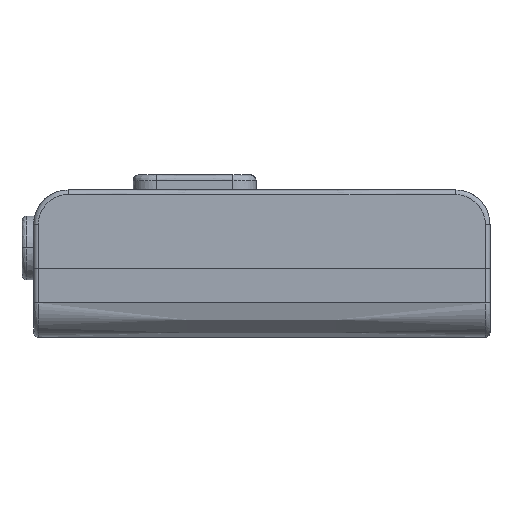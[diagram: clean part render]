
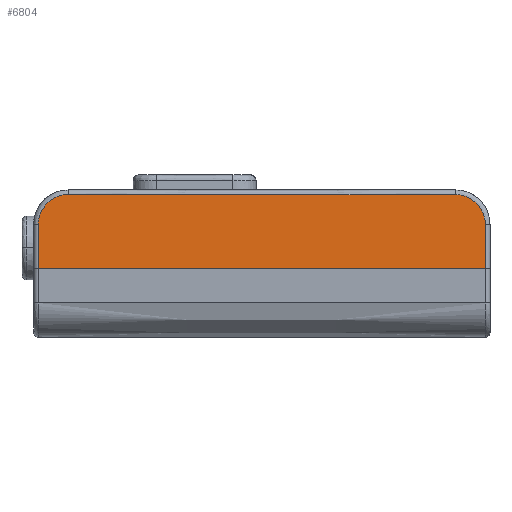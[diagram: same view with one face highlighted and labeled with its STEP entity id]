
A CAD part, front view. The second image highlights one B-rep face of the part: STEP entity #6804.
In plain terms, the highlighted planar face has unit normal (0, -1, 0.018).
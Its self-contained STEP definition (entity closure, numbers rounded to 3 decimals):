
#1473=DIRECTION('',(0.,0.017,1.));
#1474=VECTOR('',#1473,3.807);
#1475=CARTESIAN_POINT('',(-1.4,-1.726,
0.5));
#1476=LINE('',#1475,#1474);
#1497=DIRECTION('',(1.,0.,0.));
#1498=VECTOR('',#1497,33.4);
#1499=CARTESIAN_POINT('',(1.2,-1.614,6.907));
#1500=LINE('',#1499,#1498);
#1718=DIRECTION('',(0.,-0.017,-1.));
#1719=VECTOR('',#1718,3.807);
#1720=CARTESIAN_POINT('',(37.2,-1.659,4.307));
#1721=LINE('',#1720,#1719);
#1726=CARTESIAN_POINT('',(37.2,-1.659,4.307));
#1727=CARTESIAN_POINT('',(37.2,-1.657,4.465));
#1728=CARTESIAN_POINT('',(37.17,-1.651,4.79));
#1729=CARTESIAN_POINT('',(37.032,-1.643,5.272));
#1730=CARTESIAN_POINT('',(36.793,-1.635,5.736));
#1731=CARTESIAN_POINT('',(36.458,-1.627,6.152));
#1732=CARTESIAN_POINT('',(36.044,-1.621,6.491));
#1733=CARTESIAN_POINT('',(35.58,-1.617,6.733));
#1734=CARTESIAN_POINT('',(35.093,-1.615,6.876));
#1735=CARTESIAN_POINT('',(34.763,-1.614,6.907));
#1736=CARTESIAN_POINT('',(34.6,-1.614,6.907));
#1738=DIRECTION('',(1.,0.,0.));
#1739=VECTOR('',#1738,38.6);
#1740=CARTESIAN_POINT('',(-1.4,-1.726,
0.5));
#1741=LINE('',#1740,#1739);
#1742=CARTESIAN_POINT('',(1.2,-1.614,6.907));
#1743=CARTESIAN_POINT('',(1.042,-1.614,6.907));
#1744=CARTESIAN_POINT('',(0.715,-1.615,
6.877));
#1745=CARTESIAN_POINT('',(0.23,-1.617,
6.738));
#1746=CARTESIAN_POINT('',(-0.235,-1.621,
6.496));
#1747=CARTESIAN_POINT('',(-0.65,-1.627,
6.16));
#1748=CARTESIAN_POINT('',(-0.987,-1.634,
5.747));
#1749=CARTESIAN_POINT('',(-1.229,-1.642,
5.282));
#1750=CARTESIAN_POINT('',(-1.37,-1.651,
4.796));
#1751=CARTESIAN_POINT('',(-1.4,-1.657,
4.467));
#1752=CARTESIAN_POINT('',(-1.4,-1.659,
4.307));
#3020=VERTEX_POINT('',#1726);
#3021=VERTEX_POINT('',#1736);
#3022=VERTEX_POINT('',#1742);
#3023=VERTEX_POINT('',#1752);
#3024=CARTESIAN_POINT('',(-1.4,-1.726,
0.5));
#3025=VERTEX_POINT('',#3024);
#3026=CARTESIAN_POINT('',(37.2,-1.726,
0.5));
#3027=VERTEX_POINT('',#3026);
#6791=CARTESIAN_POINT('',(-1.786,-1.613,
6.971));
#6792=DIRECTION('',(0.,-1.,0.017));
#6793=DIRECTION('',(1.,0.,0.));
#6794=AXIS2_PLACEMENT_3D('',#6791,#6792,#6793);
#6795=PLANE('',#6794);
#6796=ORIENTED_EDGE('',*,*,#6682,.F.);
#6797=ORIENTED_EDGE('',*,*,#6729,.T.);
#6798=ORIENTED_EDGE('',*,*,#6786,.F.);
#6799=ORIENTED_EDGE('',*,*,#6374,.T.);
#6800=ORIENTED_EDGE('',*,*,#6426,.F.);
#6801=ORIENTED_EDGE('',*,*,#6455,.T.);
#6802=EDGE_LOOP('',(#6796,#6797,#6798,#6799,#6800,#6801));
#6803=FACE_OUTER_BOUND('',#6802,.F.);
#1737=B_SPLINE_CURVE_WITH_KNOTS('',3,(#1726,#1727,#1728,#1729,#1730,#1731,#1732,
#1733,#1734,#1735,#1736),.UNSPECIFIED.,.F.,.F.,(4,1,1,1,1,1,1,1,4),(0.,
0.116,0.239,0.367,0.498,
0.629,0.757,0.88,1.),.UNSPECIFIED.);
#1753=B_SPLINE_CURVE_WITH_KNOTS('',3,(#1742,#1743,#1744,#1745,#1746,#1747,#1748,
#1749,#1750,#1751,#1752),.UNSPECIFIED.,.F.,.F.,(4,1,1,1,1,1,1,1,4),(0.,
0.116,0.24,0.369,0.499,
0.63,0.759,0.882,1.),.UNSPECIFIED.);
#6374=EDGE_CURVE('',#3025,#3023,#1476,.T.);
#6426=EDGE_CURVE('',#3022,#3023,#1753,.T.);
#6455=EDGE_CURVE('',#3022,#3021,#1500,.T.);
#6682=EDGE_CURVE('',#3020,#3021,#1737,.T.);
#6729=EDGE_CURVE('',#3020,#3027,#1721,.T.);
#6786=EDGE_CURVE('',#3025,#3027,#1741,.T.);
#6804=ADVANCED_FACE('',(#6803),#6795,.T.);
